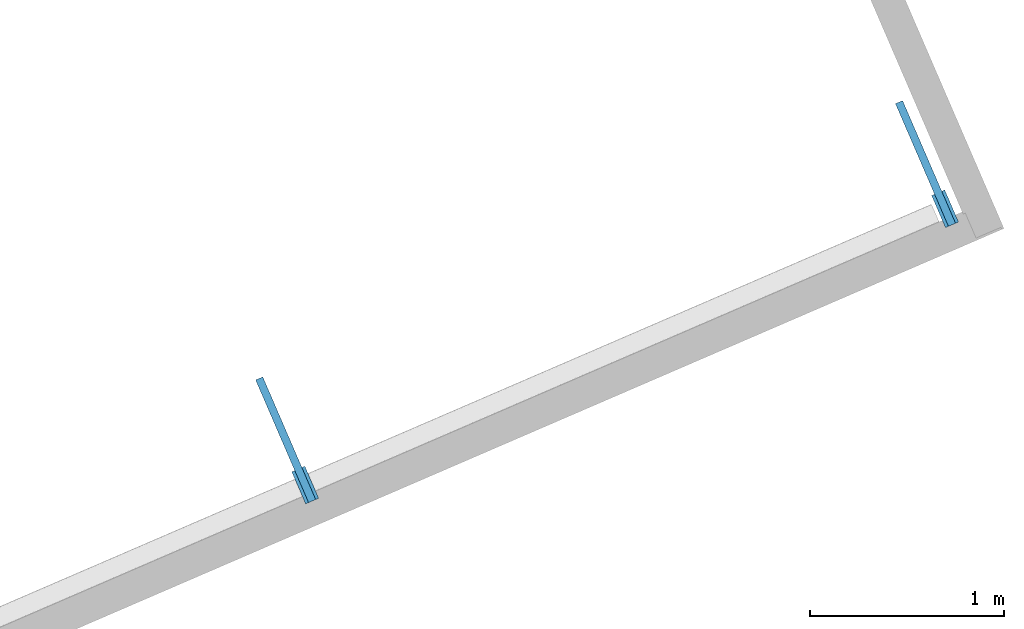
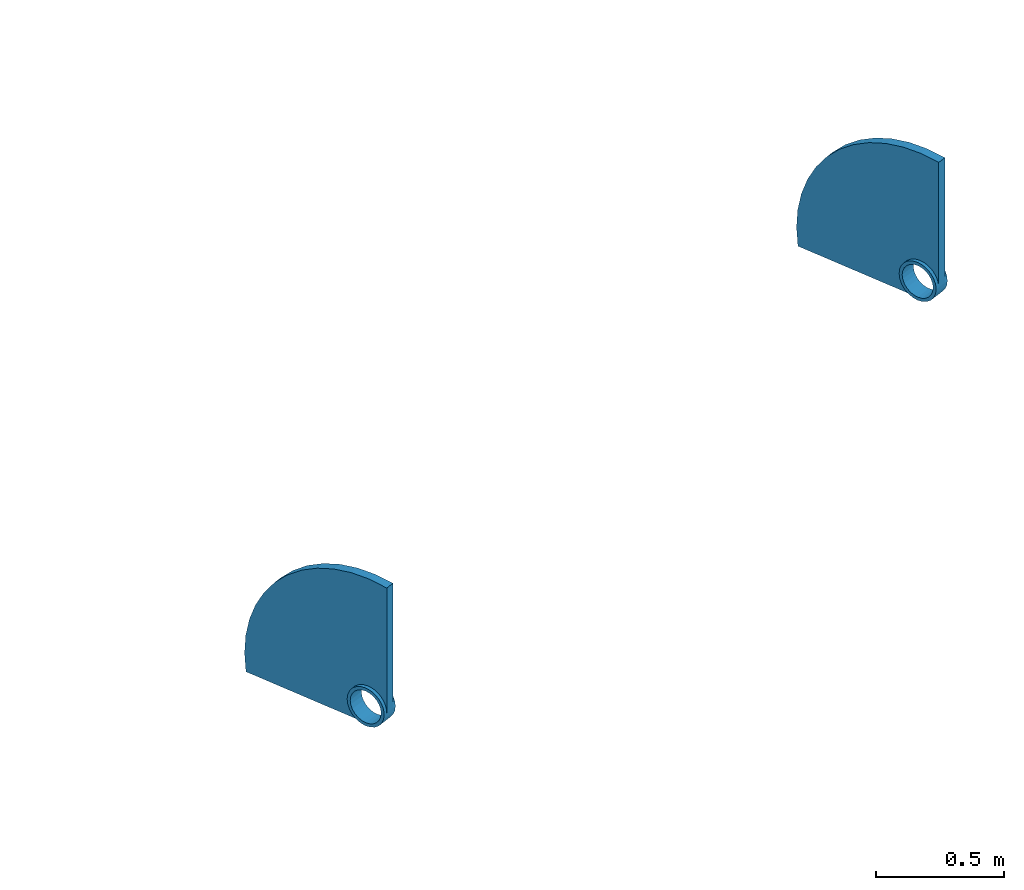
# One storey, part 3 of 5: 2 members.
"""IFC4 building model written with IfcOpenShell, lengths in metres."""

from ifc_helpers import new_model, entity, si_unit, converted_unit, derived_unit, direction, frame, origin, place, context, subcontext, project, spatial, polygons, source, transform, mapped, material, type_object, type_shapes, element, save


model = new_model("IFC4")

# Units and contexts
model_context = context("Model", 3, precision=1e-05, world=origin(), true_north=direction((6.12323399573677e-17, 1.0)))
body_context = subcontext(model_context, "Body", "Model", "MODEL_VIEW")
ifc_project = project(units=[si_unit("LENGTHUNIT", "METRE"), si_unit("AREAUNIT", "SQUARE_METRE"), si_unit("VOLUMEUNIT", "CUBIC_METRE"), converted_unit("PLANEANGLEUNIT", "DEGREE", entity("IfcPlaneAngleMeasure", 0.0174532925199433), si_unit("PLANEANGLEUNIT", "RADIAN"), dimensions=[0, 0, 0, 0, 0, 0, 0]), si_unit("MASSUNIT", "GRAM", prefix="KILO"), derived_unit("MOMENTOFINERTIAUNIT", [(si_unit("LENGTHUNIT", "METRE"), 4)]), derived_unit("LINEARFORCEUNIT", [(si_unit("MASSUNIT", "GRAM", prefix="KILO"), 1), (si_unit("TIMEUNIT", "SECOND"), -2)]), derived_unit("THERMALTRANSMITTANCEUNIT", [(si_unit("MASSUNIT", "GRAM", prefix="KILO"), 1), (si_unit("THERMODYNAMICTEMPERATUREUNIT", "KELVIN"), -1), (si_unit("TIMEUNIT", "SECOND"), -3)]), derived_unit("USERDEFINED", [(si_unit("MASSUNIT", "GRAM", prefix="KILO"), 1), (si_unit("TIMEUNIT", "SECOND"), -2), (si_unit("THERMODYNAMICTEMPERATUREUNIT", "KELVIN"), -1)]), derived_unit("THERMALRESISTANCEUNIT", [(si_unit("MASSUNIT", "GRAM", prefix="KILO"), -1), (si_unit("TIMEUNIT", "SECOND"), 3), (si_unit("THERMODYNAMICTEMPERATUREUNIT", "KELVIN"), 1)])], contexts=[model_context])

# Site, building, storey
site_placement = place(None, origin())
site = spatial("IfcSite", under=ifc_project, at=site_placement, Name="Default", CompositionType="ELEMENT")
building_placement = place(site_placement, frame((4.92348780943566, -84.5603392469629, 320.975), z_axis=(0.0, 0.0, 1.0), x_axis=(-0.396377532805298, 0.918087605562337, 0.0)))
building = spatial("IfcBuilding", under=site, at=building_placement, CompositionType="ELEMENT")
storey_placement = place(building_placement, frame((0.0, 0.0, 4.25)))
storey = spatial("IfcBuildingStorey", under=building, at=storey_placement, Name="Level 2", CompositionType="ELEMENT", Elevation=4.25)

# Members
ifc_material = material(Name="<Unnamed>")
member_type = type_object("IfcMemberType", Name="Union Metalica:Union Metalica", PredefinedType="PLATE", material=ifc_material)
shared_shape = source(origin(), body_context, "Body", "Tessellation", [
    polygons([(-0.036598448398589, 0.09, -5.82050604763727e-16), (-0.036598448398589, 0.0869333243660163, 0.0232937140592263), (-0.036598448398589, 0.0779422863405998, 0.0449999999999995), (-0.036598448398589, 0.0636396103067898, 0.0636396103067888), (-0.036598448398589, 0.0450000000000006, 0.0779422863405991), (-0.036598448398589, 0.0232937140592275, 0.086933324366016), (-0.036598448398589, 7.46918956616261e-16, 0.09), (-0.036598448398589, -0.0232937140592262, 0.0869333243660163), (-0.036598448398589, -0.0449999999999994, 0.0779422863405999), (-0.036598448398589, -0.0636396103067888, 0.0636396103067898), (-0.036598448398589, -0.0779422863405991, 0.0450000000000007), (-0.036598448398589, -0.0869333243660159, 0.0232937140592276), (-0.036598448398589, -0.09, 8.31971483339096e-16), (-0.0200000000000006, -0.09, 8.31971483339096e-16), (-0.0200000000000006, -0.0869333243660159, 0.0232937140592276), (-0.0200000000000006, -0.0779422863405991, 0.0450000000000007), (-0.0200000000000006, -0.0636396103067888, 0.0636396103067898), (-0.0200000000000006, -0.0449999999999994, 0.0779422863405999), (-0.0200000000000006, -0.0232937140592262, 0.0869333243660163), (-0.0200000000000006, 7.46918956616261e-16, 0.09), (-0.0200000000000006, 0.0232937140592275, 0.086933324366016), (-0.0200000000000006, 0.0450000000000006, 0.0779422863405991), (-0.0200000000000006, 0.0636396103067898, 0.0636396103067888), (-0.0200000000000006, 0.0779422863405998, 0.0449999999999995), (-0.0200000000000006, 0.0869333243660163, 0.0232937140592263), (-0.0200000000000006, 0.09, -5.82050604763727e-16), (0.0365984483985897, -0.09, 2.90343465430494e-16), (0.0365984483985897, -0.0869333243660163, -0.0232937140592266), (0.0365984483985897, -0.0779422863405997, -0.0449999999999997), (0.0365984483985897, -0.0636396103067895, -0.0636396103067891), (0.0365984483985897, -0.0450000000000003, -0.0779422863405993), (0.0365984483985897, -0.0232937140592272, -0.0869333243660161), (0.0365984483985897, -4.14535072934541e-16, -0.09), (0.0365984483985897, 0.0232937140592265, -0.0869333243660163), (0.0365984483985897, 0.0449999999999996, -0.0779422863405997), (0.0365984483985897, 0.0636396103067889, -0.0636396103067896), (0.0365984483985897, 0.0779422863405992, -0.0450000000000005), (0.0365984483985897, 0.086933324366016, -0.0232937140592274), (0.0365984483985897, 0.09, -4.54557967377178e-19), (0.0365984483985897, 0.0869333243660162, 0.0232937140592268), (0.0365984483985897, 0.0779422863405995, 0.045), (0.0365984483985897, 0.0636396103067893, 0.0636396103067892), (0.0365984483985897, 0.0450000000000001, 0.0779422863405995), (0.0365984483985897, 0.023293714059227, 0.0869333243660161), (0.0365984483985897, 1.26898491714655e-16, 0.09), (0.0365984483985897, -0.0232937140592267, 0.0869333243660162), (0.0365984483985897, -0.0449999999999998, 0.0779422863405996), (0.0365984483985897, -0.0636396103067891, 0.0636396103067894), (0.0365984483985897, -0.0779422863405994, 0.0450000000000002), (0.0365984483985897, -0.0869333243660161, 0.0232937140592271), (0.0365984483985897, -0.075, -2.42226404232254e-16), (0.0365984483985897, -0.0724444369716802, 0.0194114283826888), (0.0365984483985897, -0.0649519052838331, 0.0374999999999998), (0.0365984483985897, -0.0530330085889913, 0.0530330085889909), (0.0365984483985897, -0.0375000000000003, 0.0649519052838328), (0.0365984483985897, -0.0194114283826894, 0.0724444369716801), (0.0365984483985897, -3.46855877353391e-16, 0.075), (0.0365984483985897, 0.0194114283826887, 0.0724444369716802), (0.0365984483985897, 0.0374999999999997, 0.0649519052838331), (0.0365984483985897, 0.0530330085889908, 0.0530330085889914), (0.0365984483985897, 0.0649519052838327, 0.0375000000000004), (0.0365984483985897, 0.07244443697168, 0.0194114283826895), (0.0365984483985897, 0.075, 1.05281932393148e-19), (0.0365984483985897, 0.0724444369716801, -0.019411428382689), (0.0365984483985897, 0.0649519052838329, -0.0375), (0.0365984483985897, 0.0530330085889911, -0.053033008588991), (0.0365984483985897, 0.0375000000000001, -0.0649519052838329), (0.0365984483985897, 0.0194114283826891, -0.0724444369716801), (0.0365984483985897, 1.01518793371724e-16, -0.075), (0.0365984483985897, -0.0194114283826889, -0.0724444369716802), (0.0365984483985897, -0.0374999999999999, -0.064951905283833), (0.0365984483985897, -0.053033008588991, -0.0530330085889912), (0.0365984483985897, -0.0649519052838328, -0.0375000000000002), (0.0365984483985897, -0.0724444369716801, -0.0194114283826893), (-0.036598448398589, 0.086933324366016, -0.0232937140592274), (-0.036598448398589, 0.0779422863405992, -0.0450000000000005), (-0.036598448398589, 0.0636396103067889, -0.0636396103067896), (-0.036598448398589, 0.0449999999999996, -0.0779422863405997), (-0.036598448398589, 0.0232937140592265, -0.0869333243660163), (-0.036598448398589, -4.14535072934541e-16, -0.09), (-0.036598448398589, -0.0232937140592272, -0.0869333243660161), (-0.036598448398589, -0.0450000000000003, -0.0779422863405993), (-0.036598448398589, -0.0636396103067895, -0.0636396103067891), (-0.036598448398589, -0.0779422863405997, -0.0449999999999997), (-0.036598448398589, -0.0869333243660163, -0.0232937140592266), (-0.036598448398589, -0.075, -2.08919713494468e-16), (-0.036598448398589, -0.0724444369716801, -0.0194114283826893), (-0.036598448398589, -0.0649519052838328, -0.0375000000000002), (-0.036598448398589, -0.053033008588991, -0.0530330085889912), (-0.036598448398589, -0.0374999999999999, -0.064951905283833), (-0.036598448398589, -0.0194114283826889, -0.0724444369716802), (-0.036598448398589, 1.01518793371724e-16, -0.075), (-0.036598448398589, 0.0194114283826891, -0.0724444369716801), (-0.036598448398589, 0.0375000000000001, -0.0649519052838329), (-0.036598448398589, 0.0530330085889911, -0.053033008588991), (-0.036598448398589, 0.0649519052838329, -0.0375), (-0.036598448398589, 0.0724444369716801, -0.019411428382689), (-0.036598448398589, 0.075, 4.18155272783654e-16), (-0.036598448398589, 0.07244443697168, 0.0194114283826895), (-0.036598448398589, 0.0649519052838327, 0.0375000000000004), (-0.036598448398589, 0.0530330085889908, 0.0530330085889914), (-0.036598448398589, 0.0374999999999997, 0.0649519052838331), (-0.036598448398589, 0.0194114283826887, 0.0724444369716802), (-0.036598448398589, -3.46855877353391e-16, 0.075), (-0.036598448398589, -0.0194114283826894, 0.0724444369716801), (-0.036598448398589, -0.0375000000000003, 0.0649519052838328), (-0.036598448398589, -0.0530330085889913, 0.0530330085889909), (-0.036598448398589, -0.0649519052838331, 0.0374999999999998), (-0.036598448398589, -0.0724444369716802, 0.0194114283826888), (0.0200000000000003, -0.09, 1.30471349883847e-16), (-0.0200000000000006, 0.0869333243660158, -0.0232937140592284), (-0.0200000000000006, 0.0779422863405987, -0.0450000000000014), (-0.0200000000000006, 0.0636396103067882, -0.0636396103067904), (-0.0200000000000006, 0.0449999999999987, -0.0779422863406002), (-0.0200000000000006, 0.0232937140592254, -0.0869333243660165), (-0.0200000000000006, -8.95889483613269e-16, -0.09), (0.0200000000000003, -1.37550583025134e-15, -0.09), (0.0200000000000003, 0.0232937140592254, -0.0869333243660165), (0.0200000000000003, 0.0449999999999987, -0.0779422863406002), (0.0200000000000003, 0.0636396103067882, -0.0636396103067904), (0.0200000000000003, 0.0779422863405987, -0.0450000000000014), (0.0200000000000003, 0.0869333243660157, -0.0232937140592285), (0.0200000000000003, 0.09, -1.14160300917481e-15), (0.0200000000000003, 0.0869333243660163, 0.0232937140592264), (0.0200000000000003, 0.0779422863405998, 0.0449999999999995), (0.0200000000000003, 0.0636396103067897, 0.0636396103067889), (0.0200000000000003, 0.0450000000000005, 0.0779422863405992), (0.0200000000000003, 0.0232937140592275, 0.086933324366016), (0.0200000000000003, 7.46918956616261e-16, 0.09), (0.0200000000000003, -0.0232937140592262, 0.0869333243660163), (0.0200000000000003, -0.0449999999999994, 0.0779422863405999), (0.0200000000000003, -0.0636396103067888, 0.0636396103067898), (0.0200000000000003, -0.0779422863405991, 0.0450000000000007), (0.0200000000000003, -0.0869333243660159, 0.0232937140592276), (0.0200000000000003, 0.593211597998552, -0.090000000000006), (0.0200000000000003, 0.599987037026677, -0.00394403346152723), (0.0200000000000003, 0.594343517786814, 0.0821935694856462), (0.0200000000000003, 0.57639785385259, 0.166629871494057), (0.0200000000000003, 0.546521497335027, 0.247617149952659), (0.0200000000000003, 0.505332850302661, 0.323479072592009), (0.0200000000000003, 0.453684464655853, 0.39264539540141), (0.0200000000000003, 0.392645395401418, 0.453684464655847), (0.0200000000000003, 0.323479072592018, 0.505332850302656), (0.0200000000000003, 0.247617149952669, 0.546521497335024), (0.0200000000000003, 0.166629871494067, 0.576397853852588), (0.0200000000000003, 0.0821935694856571, 0.594343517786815), (0.0200000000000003, -0.00394403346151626, 0.59998703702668), (0.0200000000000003, -0.0899999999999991, 0.593211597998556), (-0.0200000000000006, 0.593211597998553, -0.0900000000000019), (-0.0200000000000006, -0.0899999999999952, 0.593211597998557), (-0.0200000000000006, -0.00394403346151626, 0.59998703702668), (-0.0200000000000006, 0.0821935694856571, 0.594343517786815), (-0.0200000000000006, 0.166629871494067, 0.576397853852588), (-0.0200000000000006, 0.247617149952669, 0.546521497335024), (-0.0200000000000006, 0.323479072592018, 0.505332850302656), (-0.0200000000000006, 0.392645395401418, 0.453684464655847), (-0.0200000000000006, 0.453684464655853, 0.39264539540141), (-0.0200000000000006, 0.505332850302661, 0.323479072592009), (-0.0200000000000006, 0.546521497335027, 0.247617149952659), (-0.0200000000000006, 0.57639785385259, 0.166629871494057), (-0.0200000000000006, 0.594343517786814, 0.0821935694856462), (-0.0200000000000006, 0.599987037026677, -0.00394403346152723)], [[[2, 25, 26, 1]], [[51, 74, 87, 86]], [[123, 124, 40, 39]], [[3, 24, 25, 2]], [[74, 73, 88, 87]], [[124, 125, 41, 40]], [[23, 4, 5, 22]], [[71, 90, 89, 72]], [[126, 127, 43, 42]], [[3, 4, 23, 24]], [[88, 73, 72, 89]], [[125, 126, 42, 41]], [[22, 5, 6, 21]], [[71, 70, 91, 90]], [[127, 128, 44, 43]], [[7, 20, 21, 6]], [[69, 92, 91, 70]], [[45, 44, 128, 129]], [[9, 18, 19, 8]], [[94, 93, 68, 67]], [[130, 131, 47, 46]], [[10, 17, 18, 9]], [[95, 94, 67, 66]], [[131, 132, 48, 47]], [[16, 11, 12, 15]], [[64, 97, 96, 65]], [[133, 134, 50, 49]], [[10, 11, 16, 17]], [[96, 95, 66, 65]], [[132, 133, 49, 48]], [[15, 12, 13, 14]], [[63, 98, 97, 64]], [[134, 110, 27, 50]], [[19, 20, 7, 8]], [[93, 92, 69, 68]], [[130, 46, 45, 129]], [[47, 48, 49, 50, 27, 28, 29, 30, 31, 32, 33, 34, 35, 36, 37, 38, 39, 40, 41, 42, 43, 44, 45, 46], [55, 56, 57, 58, 59, 60, 61, 62, 63, 64, 65, 66, 67, 68, 69, 70, 71, 72, 73, 74, 51, 52, 53, 54]], [[122, 121, 120, 119, 118, 117, 135, 136, 137, 138, 139, 140, 141, 142, 143, 144, 145, 146, 147, 148, 110, 134, 133, 132, 131, 130, 129, 128, 127, 126, 125, 124, 123]], [[82, 83, 84, 85, 13, 12, 11, 10, 9, 8, 7, 6, 5, 4, 3, 2, 1, 75, 76, 77, 78, 79, 80, 81], [90, 91, 92, 93, 94, 95, 96, 97, 98, 99, 100, 101, 102, 103, 104, 105, 106, 107, 108, 109, 86, 87, 88, 89]], [[156, 157, 158, 159, 160, 161, 162, 149, 116, 115, 114, 113, 112, 111, 26, 25, 24, 23, 22, 21, 20, 19, 18, 17, 16, 15, 14, 150, 151, 152, 153, 154, 155]], [[53, 52, 109, 108]], [[75, 111, 112, 76]], [[121, 122, 38, 37]], [[109, 52, 51, 86]], [[75, 1, 26, 111]], [[122, 123, 39, 38]], [[55, 54, 107, 106]], [[78, 77, 113, 114]], [[119, 120, 36, 35]], [[53, 108, 107, 54]], [[112, 113, 77, 76]], [[120, 121, 37, 36]], [[55, 106, 105, 56]], [[115, 79, 78, 114]], [[119, 35, 34, 118]], [[105, 104, 57, 56]], [[80, 79, 115, 116]], [[33, 117, 118, 34]], [[59, 58, 103, 102]], [[82, 81, 32, 31]], [[59, 102, 101, 60]], [[30, 83, 82, 31]], [[62, 61, 100, 99]], [[84, 29, 28, 85]], [[100, 61, 60, 101]], [[83, 30, 29, 84]], [[63, 62, 99, 98]], [[14, 13, 85, 28, 27, 110]], [[57, 104, 103, 58]], [[80, 116, 117, 33, 32, 81]], [[135, 149, 162, 136]], [[161, 137, 136, 162]], [[159, 158, 140, 139]], [[138, 160, 159, 139]], [[137, 161, 160, 138]], [[140, 158, 157, 141]], [[157, 156, 142, 141]], [[142, 156, 155, 143]], [[154, 144, 143, 155]], [[152, 151, 147, 146]], [[145, 153, 152, 146]], [[144, 154, 153, 145]], [[147, 151, 150, 148]], [[110, 148, 150, 14]], [[135, 117, 116, 149]]], closed=True),
])
type_shapes(member_type, [shared_shape])
for number, where, z_axis, x_axis, name in (
    (1, (-2.07683941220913, -5.08882295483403, -4.25000000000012), (0.0, 0.0, 1.0), (0.0, -1.0, 0.0), "Union Metalica:Union Metalica"),
    (2, (-2.07683941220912, -1.48882295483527, -4.25000000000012), (0.0, 0.0, 1.0), (0.0, -1.0, 0.0), "Union Metalica:Union Metalica"),
):
    element("IfcMember", number, at=place(storey_placement, frame(where, z_axis=z_axis, x_axis=x_axis)), inside=storey, type_object=member_type, material=ifc_material, Name=name, ObjectType="Union Metalica:Union Metalica", PredefinedType="PLATE", context=body_context, shape_type="MappedRepresentation", body=[
        mapped(shared_shape, transform((0.0, 0.0, 0.0), scale=1.0)),
    ])

save(model, "model.ifc")
